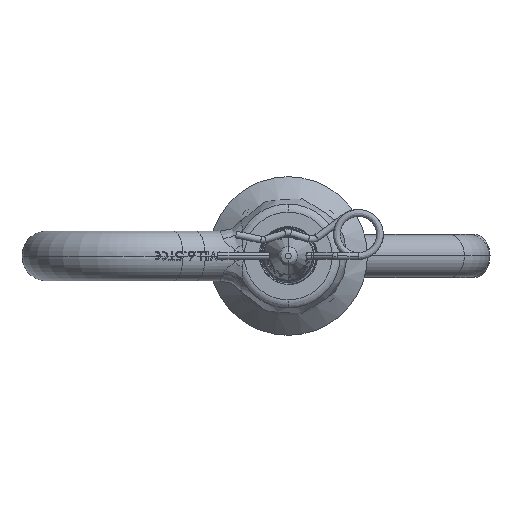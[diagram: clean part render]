
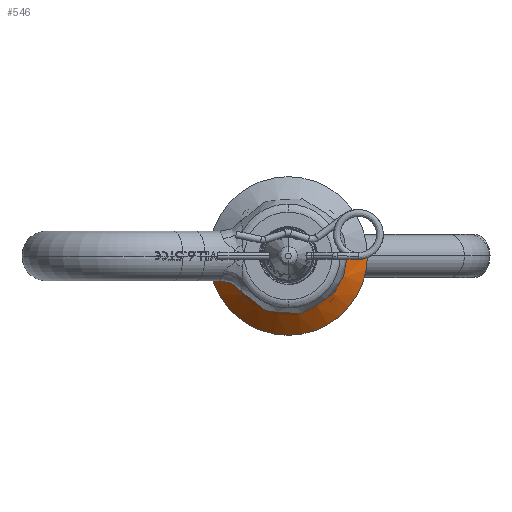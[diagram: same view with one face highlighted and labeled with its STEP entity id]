
A CAD part, left-side view. The second image highlights one B-rep face of the part: STEP entity #546.
In plain terms, the highlighted conical face has half-angle 45 degrees and reference radius 35 mm.
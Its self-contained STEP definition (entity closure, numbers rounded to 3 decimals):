
#546=ADVANCED_FACE('',(#1985),#1986,.T.);
#1985=FACE_OUTER_BOUND('',#9978,.T.);
#1986=CONICAL_SURFACE('',#9979,35.0,0.785);
#9978=EDGE_LOOP('',(#22885,#22886,#22887,#22888));
#9979=AXIS2_PLACEMENT_3D('',#22889,#22890,#22891);
#22885=ORIENTED_EDGE('',*,*,#28101,.T.);
#22886=ORIENTED_EDGE('',*,*,#28393,.T.);
#22887=ORIENTED_EDGE('',*,*,#28103,.T.);
#22888=ORIENTED_EDGE('',*,*,#28381,.F.);
#22889=CARTESIAN_POINT('',(57.,-66.5,0.));
#22890=DIRECTION('',(1.0,0.,0.));
#22891=DIRECTION('',(0.,1.0,0.));
#28101=EDGE_CURVE('',#31373,#31370,#31374,.T.);
#28103=EDGE_CURVE('',#31366,#31375,#31377,.T.);
#28381=EDGE_CURVE('',#31373,#31375,#31905,.T.);
#28393=EDGE_CURVE('',#31370,#31366,#31919,.T.);
#31366=VERTEX_POINT('',#44276);
#31370=VERTEX_POINT('',#44281);
#31373=VERTEX_POINT('',#44285);
#31374=LINE('',#44286,#44287);
#31375=VERTEX_POINT('',#44288);
#31377=LINE('',#44290,#44291);
#31905=CIRCLE('',#53368,18.0);
#31919=CIRCLE('',#54292,35.0);
#44276=CARTESIAN_POINT('',(57.,-101.5,0.));
#44281=CARTESIAN_POINT('',(57.,-31.5,0.));
#44285=CARTESIAN_POINT('',(40.0,-48.5,0.));
#44286=CARTESIAN_POINT('',(57.,-31.5,0.));
#44287=VECTOR('',#66685,1.0);
#44288=CARTESIAN_POINT('',(40.0,-84.5,0.));
#44290=CARTESIAN_POINT('',(57.,-101.5,0.));
#44291=VECTOR('',#66689,35.0);
#53368=AXIS2_PLACEMENT_3D('',#66921,#66922,#66923);
#54292=AXIS2_PLACEMENT_3D('',#66934,#66935,#66936);
#66685=DIRECTION('',(0.707,0.707,0.));
#66689=DIRECTION('',(-0.707,0.707,0.));
#66921=CARTESIAN_POINT('',(40.0,-66.5,0.));
#66922=DIRECTION('',(-1.0,0.,0.));
#66923=DIRECTION('',(0.,-1.0,0.));
#66934=CARTESIAN_POINT('',(57.,-66.5,0.));
#66935=DIRECTION('',(-1.0,0.,0.));
#66936=DIRECTION('',(0.,-1.0,0.));
